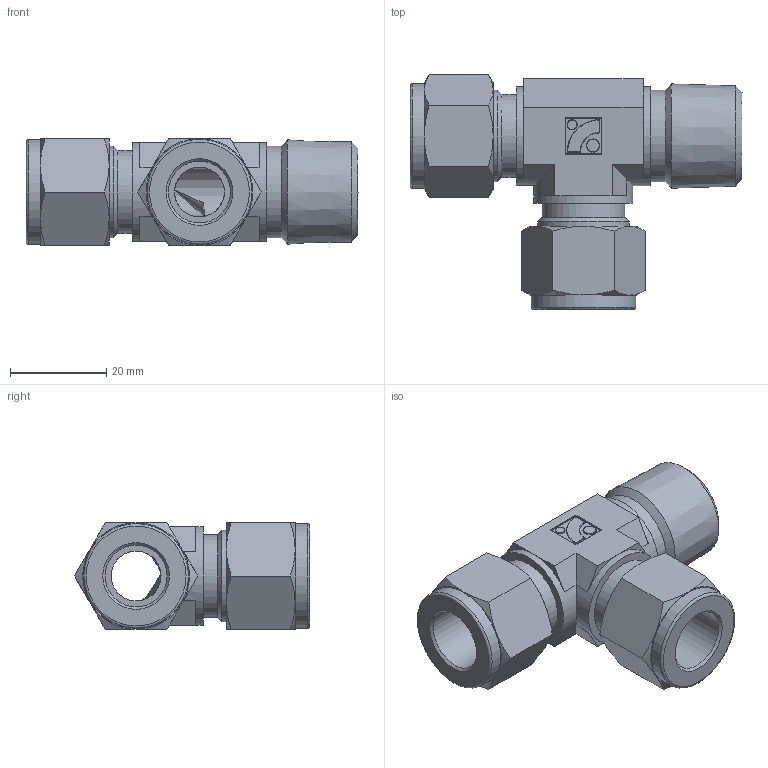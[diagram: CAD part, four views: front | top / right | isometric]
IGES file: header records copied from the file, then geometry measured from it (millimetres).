
Global section: file name: No Iges File Name specified; native system: Autodesk Inventor 2012; preprocessor: AutoDesk Inventor Iges Exporter R2012; author: 硅己绕,, ; organization: 11; date: 20150815.154847; units: millimetre
Bounding box: 69.1 x 48.93 x 22.22 mm (x, y, z)
Volume: 24442.3 mm3; surface area: 11413.4 mm2
Topology: 1 solids, 1 shells, 145 faces, 335 edges, 203 vertices
Faces by surface type: plane 62, cone 29, cylinder 23, revolution 21, torus 6, sphere 4
Full cylindrical faces by diameter (mm): 2.006 x1, 2.675 x1, 17.2 x2, 18.996 x1, 19.05 x2, 20.6 x3, 21.8 x2
